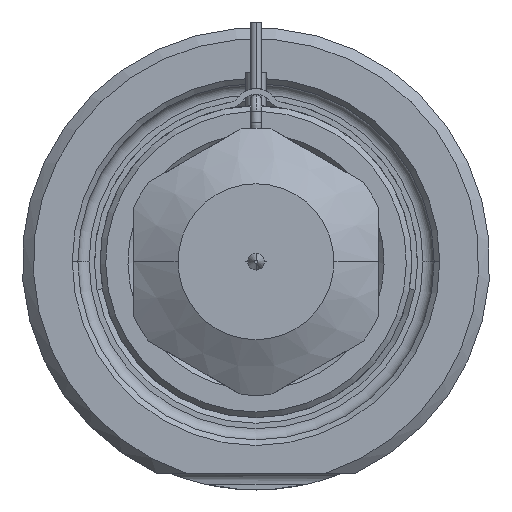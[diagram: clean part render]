
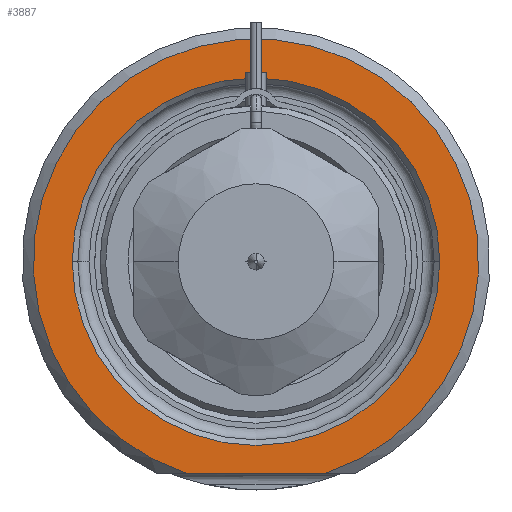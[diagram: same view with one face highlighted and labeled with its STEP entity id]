
A CAD part, front view. The second image highlights one B-rep face of the part: STEP entity #3887.
In plain terms, the highlighted planar face has unit normal (0, -1, 0).
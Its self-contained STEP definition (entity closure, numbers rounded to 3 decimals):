
#1=DIRECTION('',(1.,0.,0.));
#2=VECTOR('',#1,12.49);
#3=CARTESIAN_POINT('',(-6.245,0.,-19.));
#4=LINE('',#3,#2);
#5=CARTESIAN_POINT('',(0.,0.,0.));
#6=DIRECTION('',(0.,1.,0.));
#7=DIRECTION('',(-1.,0.,0.));
#8=AXIS2_PLACEMENT_3D('',#5,#6,#7);
#10=CARTESIAN_POINT('',(0.,0.,0.));
#11=DIRECTION('',(0.,1.,0.));
#12=DIRECTION('',(1.,0.,0.));
#13=AXIS2_PLACEMENT_3D('',#10,#11,#12);
#119=CARTESIAN_POINT('',(0.,0.,0.));
#120=DIRECTION('',(0.,-1.,0.));
#121=DIRECTION('',(0.312,0.,-0.95));
#122=AXIS2_PLACEMENT_3D('',#119,#120,#121);
#3260=CARTESIAN_POINT('',(-16.5,0.,0.));
#3261=CARTESIAN_POINT('',(16.5,0.,0.));
#3262=VERTEX_POINT('',#3260);
#3263=VERTEX_POINT('',#3261);
#3300=CARTESIAN_POINT('',(-6.245,0.,-19.));
#3301=CARTESIAN_POINT('',(6.245,0.,-19.));
#3302=VERTEX_POINT('',#3300);
#3303=VERTEX_POINT('',#3301);
#3870=CARTESIAN_POINT('',(0.,0.,0.));
#3871=DIRECTION('',(0.,-1.,0.));
#3872=DIRECTION('',(1.,0.,0.));
#3873=AXIS2_PLACEMENT_3D('',#3870,#3871,#3872);
#3874=PLANE('',#3873);
#3876=ORIENTED_EDGE('',*,*,#3875,.F.);
#3878=ORIENTED_EDGE('',*,*,#3877,.F.);
#3879=EDGE_LOOP('',(#3876,#3878));
#3880=FACE_OUTER_BOUND('',#3879,.F.);
#3882=ORIENTED_EDGE('',*,*,#3881,.F.);
#3884=ORIENTED_EDGE('',*,*,#3883,.F.);
#3885=EDGE_LOOP('',(#3882,#3884));
#3886=FACE_BOUND('',#3885,.F.);
#3887=ADVANCED_FACE('',(#3880,#3886),#3874,.T.);
#9=CIRCLE('',#8,16.5);
#14=CIRCLE('',#13,16.5);
#123=CIRCLE('',#122,20.);
#3875=EDGE_CURVE('',#3302,#3303,#4,.T.);
#3877=EDGE_CURVE('',#3303,#3302,#123,.T.);
#3881=EDGE_CURVE('',#3262,#3263,#9,.T.);
#3883=EDGE_CURVE('',#3263,#3262,#14,.T.);
